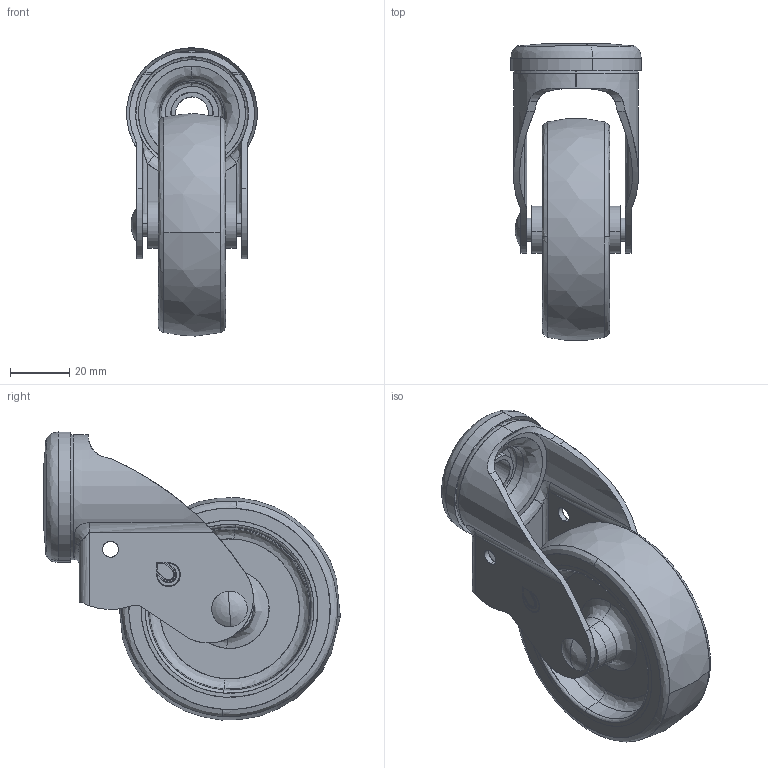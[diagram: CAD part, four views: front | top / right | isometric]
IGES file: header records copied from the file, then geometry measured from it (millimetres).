
Start section: SolidWorks IGES file using analytic representation for surfaces
Global section: file name: S:\Tyokansio\ML\3DWEBMALLIT\E\EI-PTE\IGES\200307_IGES.IGS; native system: SolidWorks 2011; preprocessor: SolidWorks 2011; author: markola; date: 140612.124543; units: millimetre
Bounding box: 44 x 99.78 x 96.88 mm (x, y, z)
Surface area: 54378.5 mm2 (no closed solid volume)
Topology: 0 solids, 0 shells, 277 faces, 4624 edges, 4537 vertices
Faces by surface type: revolution 163, bspline 114
